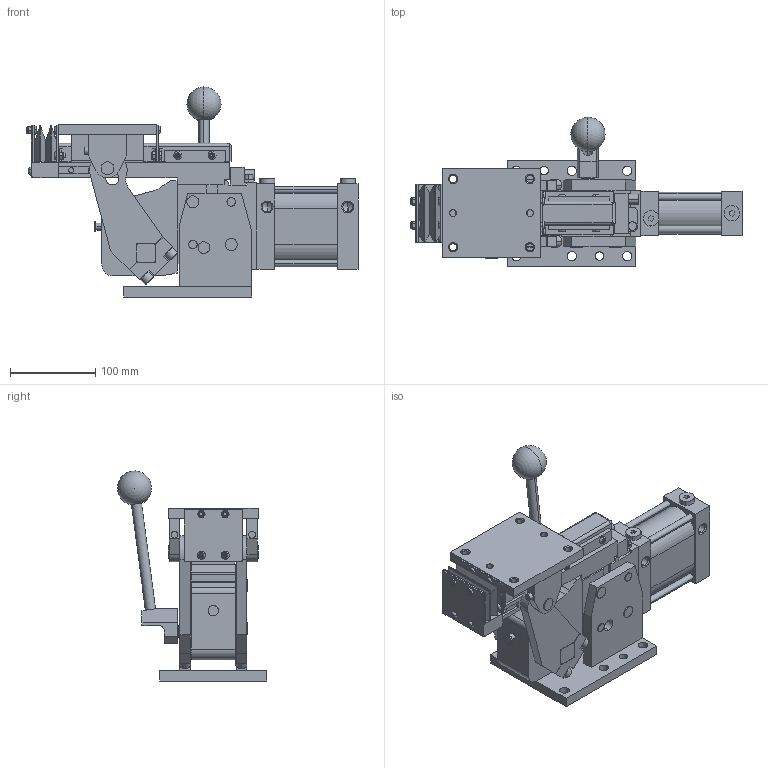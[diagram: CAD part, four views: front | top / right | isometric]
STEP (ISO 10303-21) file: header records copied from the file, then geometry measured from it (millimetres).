
FILE_DESCRIPTION (( 'STEP AP214' ), '1' );
FILE_NAME ('slcpm63_90_xx_lb_x_s3.STEP', '2019-09-19T12:55:06', ( '' ), ( '' ), 'SwSTEP 2.0', 'SolidWorks 2019', '' );
FILE_SCHEMA (( 'AUTOMOTIVE_DESIGN' ));
Length unit declared in the file: millimetre
Products named in the file (9): piastra_superiore_slcp63; slcpm63_90_xx_x_x; riparo_binario_post_slcp63; leva_slcp63; leva_slcpm63; slcpm63_90_xx_lb_x_s3; blocchetto_VEP_0; soffietto_slcp63; tappo cil G1_4 din908_rondella rame
Assembly tree (9 placements, depth 2):
  slcpm63_90_xx_lb_x_s3
    slcpm63_90_xx_x_x
    piastra_superiore_slcp63
    leva_slcp63
    blocchetto_VEP_0
    tappo cil G1_4 din908_rondella rame  x2
    riparo_binario_post_slcp63
    leva_slcpm63
    soffietto_slcp63
Bounding box: 389 x 174.8 x 246.1 mm (x, y, z)
Volume: 2846910.7 mm3; surface area: 424814.8 mm2
Topology: 44 solids, 58 shells, 1639 faces, 3995 edges, 2459 vertices
Faces by surface type: plane 759, cone 418, cylinder 410, torus 50, sphere 2
Entity records: 60482 total; most frequent: CARTESIAN_POINT 9521, DIRECTION 8228, ORIENTED_EDGE 7728, EDGE_CURVE 3864, AXIS2_PLACEMENT_3D 2999, VERTEX_POINT 2436, VECTOR 2230, LINE 2230
